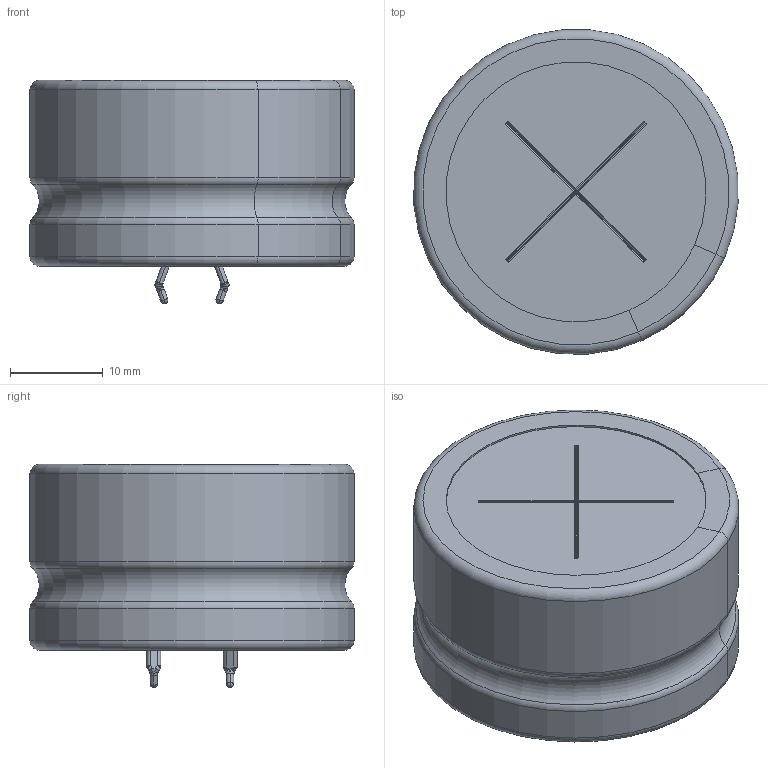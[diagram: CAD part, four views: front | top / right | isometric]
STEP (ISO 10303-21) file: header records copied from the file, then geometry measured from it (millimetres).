
FILE_DESCRIPTION(/* description */ (''),/* implementation_level */ '2;1');
FILE_NAME(/* name */ '35x20_Snap.stp',/* time_stamp */ '2017-09-11T16:15:16+09:00',/* author */ (''),/* organization */ (''),/* preprocessor_version */ 'ST-DEVELOPER v16',/* originating_system */ 'SIEMENS PLM Software NX 11.0',/* authorisation */ '');
FILE_SCHEMA (('AUTOMOTIVE_DESIGN { 1 0 10303 214 3 1 1 1 }'));
Length unit declared in the file: millimetre
Products named in the file (1): 35x20_Snap_0
Bounding box: 34.9 x 34.9 x 24.02 mm (x, y, z)
Volume: 18646.4 mm3; surface area: 9779.7 mm2
Topology: 5 solids, 5 shells, 208 faces, 523 edges, 310 vertices
Faces by surface type: cylinder 76, plane 75, torus 25, sphere 20, bspline 12
Full cylindrical faces by diameter (mm): 4 x2, 34.6 x2
Entity records: 6775 total; most frequent: CARTESIAN_POINT 1265, DIRECTION 1128, ORIENTED_EDGE 988, EDGE_CURVE 494, AXIS2_PLACEMENT_3D 437, VERTEX_POINT 310, LINE 254, VECTOR 254
